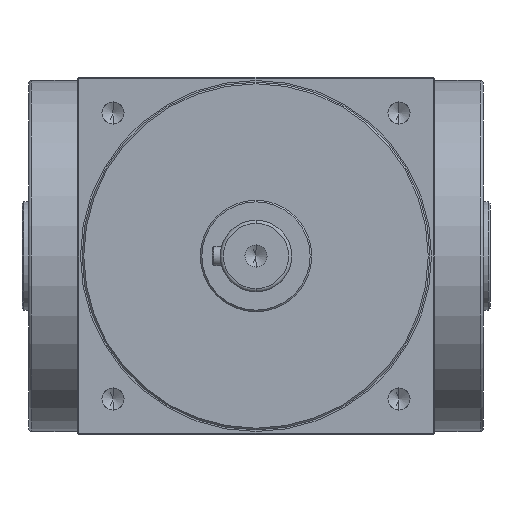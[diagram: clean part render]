
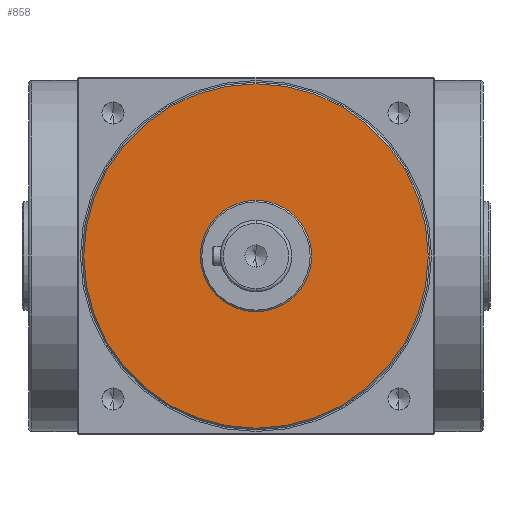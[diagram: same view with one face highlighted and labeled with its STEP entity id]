
A CAD part, front view. The second image highlights one B-rep face of the part: STEP entity #858.
In plain terms, the highlighted planar face has unit normal (0, -1, 0).
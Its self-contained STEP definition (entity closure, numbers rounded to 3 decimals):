
#32 = CARTESIAN_POINT ( 'NONE',  ( 0., -113., -53. ) ) ;
#153 = AXIS2_PLACEMENT_3D ( 'NONE', #1628, #848, #7702 ) ;
#477 = DIRECTION ( 'NONE',  ( 0., 0., -1. ) ) ;
#756 = DIRECTION ( 'NONE',  ( 0., 0., -1. ) ) ;
#848 = DIRECTION ( 'NONE',  ( 0., -1., 0. ) ) ;
#858 = ADVANCED_FACE ( 'NONE', ( #4501, #7213 ), #3113, .T. ) ;
#951 = CARTESIAN_POINT ( 'NONE',  ( 0., -113., 0. ) ) ;
#1049 = CARTESIAN_POINT ( 'NONE',  ( 0., -113., -17.15 ) ) ;
#1396 = AXIS2_PLACEMENT_3D ( 'NONE', #951, #3726, #8435 ) ;
#1478 = CARTESIAN_POINT ( 'NONE',  ( 0., -113., 0. ) ) ;
#1628 = CARTESIAN_POINT ( 'NONE',  ( 0., -113., 0. ) ) ;
#2464 = CIRCLE ( 'NONE', #8619, 53. ) ;
#2573 = CARTESIAN_POINT ( 'NONE',  ( 0., -113., 53. ) ) ;
#3113 = PLANE ( 'NONE',  #1396 ) ;
#3273 = DIRECTION ( 'NONE',  ( 0., -1., 0. ) ) ;
#3484 = ORIENTED_EDGE ( 'NONE', *, *, #3825, .F. ) ;
#3580 = AXIS2_PLACEMENT_3D ( 'NONE', #1478, #8251, #756 ) ;
#3724 = ORIENTED_EDGE ( 'NONE', *, *, #7714, .T. ) ;
#3726 = DIRECTION ( 'NONE',  ( 0., -1., 0. ) ) ;
#3812 = CIRCLE ( 'NONE', #3580, 17.15 ) ;
#3825 = EDGE_CURVE ( 'NONE', #3915, #4570, #4136, .T. ) ;
#3915 = VERTEX_POINT ( 'NONE', #1049 ) ;
#4104 = EDGE_LOOP ( 'NONE', ( #7760, #3724 ) ) ;
#4136 = CIRCLE ( 'NONE', #153, 17.15 ) ;
#4501 = FACE_OUTER_BOUND ( 'NONE', #4104, .T. ) ;
#4570 = VERTEX_POINT ( 'NONE', #5682 ) ;
#4579 = CARTESIAN_POINT ( 'NONE',  ( 0., -113., 0. ) ) ;
#4583 = EDGE_LOOP ( 'NONE', ( #6428, #3484 ) ) ;
#4776 = VERTEX_POINT ( 'NONE', #2573 ) ;
#5223 = EDGE_CURVE ( 'NONE', #4776, #7847, #2464, .T. ) ;
#5457 = AXIS2_PLACEMENT_3D ( 'NONE', #8180, #7462, #8158 ) ;
#5682 = CARTESIAN_POINT ( 'NONE',  ( 0., -113., 17.15 ) ) ;
#6428 = ORIENTED_EDGE ( 'NONE', *, *, #7334, .F. ) ;
#7213 = FACE_BOUND ( 'NONE', #4583, .T. ) ;
#7230 = CIRCLE ( 'NONE', #5457, 53. ) ;
#7334 = EDGE_CURVE ( 'NONE', #4570, #3915, #3812, .T. ) ;
#7462 = DIRECTION ( 'NONE',  ( 0., -1., 0. ) ) ;
#7702 = DIRECTION ( 'NONE',  ( 0., 0., -1. ) ) ;
#7714 = EDGE_CURVE ( 'NONE', #7847, #4776, #7230, .T. ) ;
#7760 = ORIENTED_EDGE ( 'NONE', *, *, #5223, .T. ) ;
#7847 = VERTEX_POINT ( 'NONE', #32 ) ;
#8158 = DIRECTION ( 'NONE',  ( 0., 0., -1. ) ) ;
#8180 = CARTESIAN_POINT ( 'NONE',  ( 0., -113., 0. ) ) ;
#8251 = DIRECTION ( 'NONE',  ( 0., -1., 0. ) ) ;
#8435 = DIRECTION ( 'NONE',  ( 0., 0., -1. ) ) ;
#8619 = AXIS2_PLACEMENT_3D ( 'NONE', #4579, #3273, #477 ) ;
